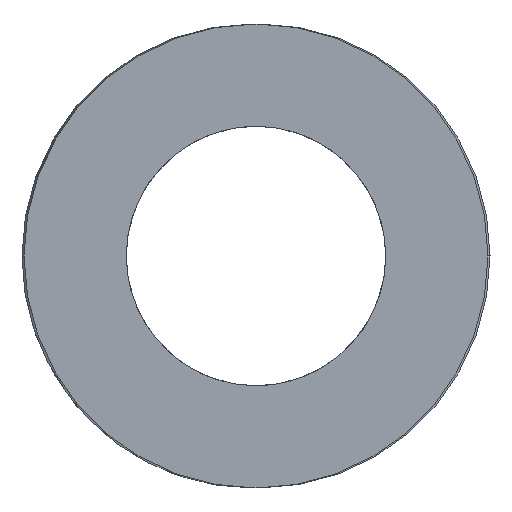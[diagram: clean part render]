
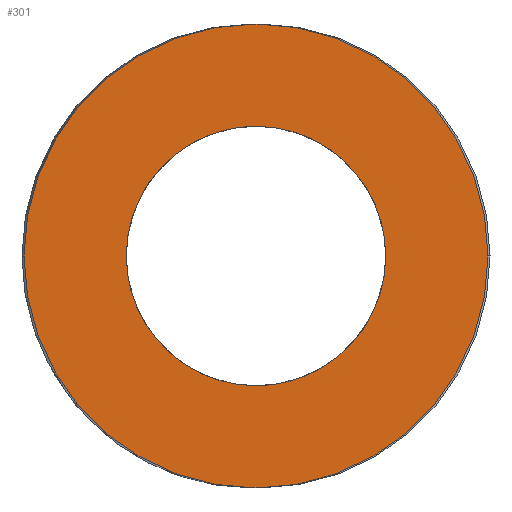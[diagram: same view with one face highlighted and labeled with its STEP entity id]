
A CAD part, left-side view. The second image highlights one B-rep face of the part: STEP entity #301.
In plain terms, the highlighted planar face has unit normal (-1, 0, 0).
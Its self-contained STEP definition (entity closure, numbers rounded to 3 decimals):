
#63=CARTESIAN_POINT('Vertex',(0.,12.25,0.)) ;
#77=CARTESIAN_POINT('Vertex',(0.,-12.25,0.)) ;
#80=CARTESIAN_POINT('Axis2P3D Location',(0.,0.,0.)) ;
#97=CARTESIAN_POINT('Axis2P3D Location',(0.,0.,0.)) ;
#232=CARTESIAN_POINT('Axis2P3D Location',(0.,6.125,0.)) ;
#242=CARTESIAN_POINT('Control Point',(0.,0.,-6.85)) ;
#243=CARTESIAN_POINT('Control Point',(0.,0.641,-6.85)) ;
#244=CARTESIAN_POINT('Control Point',(0.,1.282,-6.775)) ;
#245=CARTESIAN_POINT('Control Point',(0.,1.912,-6.625)) ;
#246=CARTESIAN_POINT('Control Point',(0.,3.124,-6.181)) ;
#247=CARTESIAN_POINT('Control Point',(0.,4.2,-5.468)) ;
#248=CARTESIAN_POINT('Control Point',(0.,4.694,-5.051)) ;
#249=CARTESIAN_POINT('Control Point',(0.,5.576,-4.107)) ;
#250=CARTESIAN_POINT('Control Point',(0.,6.215,-2.986)) ;
#251=CARTESIAN_POINT('Control Point',(0.,6.468,-2.39)) ;
#252=CARTESIAN_POINT('Control Point',(0.,6.829,-1.151)) ;
#253=CARTESIAN_POINT('Control Point',(0.,6.894,0.139)) ;
#254=CARTESIAN_POINT('Control Point',(0.,6.851,0.784)) ;
#255=CARTESIAN_POINT('Control Point',(0.,6.614,2.053)) ;
#256=CARTESIAN_POINT('Control Point',(0.,6.09,3.233)) ;
#257=CARTESIAN_POINT('Control Point',(0.,5.76,3.79)) ;
#258=CARTESIAN_POINT('Control Point',(0.,4.977,4.816)) ;
#259=CARTESIAN_POINT('Control Point',(0.,3.977,5.633)) ;
#260=CARTESIAN_POINT('Control Point',(0.,3.432,5.981)) ;
#261=CARTESIAN_POINT('Control Point',(0.,2.436,6.462)) ;
#262=CARTESIAN_POINT('Control Point',(0.,1.368,6.735)) ;
#263=CARTESIAN_POINT('Control Point',(0.,0.915,6.812)) ;
#264=CARTESIAN_POINT('Control Point',(0.,0.457,6.85)) ;
#265=CARTESIAN_POINT('Control Point',(0.,0.,6.85)) ;
#266=CARTESIAN_POINT('Vertex',(0.,0.,-6.85)) ;
#268=CARTESIAN_POINT('Vertex',(0.,0.,6.85)) ;
#272=CARTESIAN_POINT('Control Point',(0.,0.,6.85)) ;
#273=CARTESIAN_POINT('Control Point',(0.,-0.641,6.85)) ;
#274=CARTESIAN_POINT('Control Point',(0.,-1.282,6.775)) ;
#275=CARTESIAN_POINT('Control Point',(0.,-1.912,6.625)) ;
#276=CARTESIAN_POINT('Control Point',(0.,-3.124,6.181)) ;
#277=CARTESIAN_POINT('Control Point',(0.,-4.2,5.468)) ;
#278=CARTESIAN_POINT('Control Point',(0.,-4.694,5.051)) ;
#279=CARTESIAN_POINT('Control Point',(0.,-5.576,4.107)) ;
#280=CARTESIAN_POINT('Control Point',(0.,-6.215,2.986)) ;
#281=CARTESIAN_POINT('Control Point',(0.,-6.468,2.39)) ;
#282=CARTESIAN_POINT('Control Point',(0.,-6.829,1.151)) ;
#283=CARTESIAN_POINT('Control Point',(0.,-6.894,-0.139)) ;
#284=CARTESIAN_POINT('Control Point',(0.,-6.851,-0.784)) ;
#285=CARTESIAN_POINT('Control Point',(0.,-6.614,-2.053)) ;
#286=CARTESIAN_POINT('Control Point',(0.,-6.09,-3.233)) ;
#287=CARTESIAN_POINT('Control Point',(0.,-5.76,-3.79)) ;
#288=CARTESIAN_POINT('Control Point',(0.,-4.977,-4.816)) ;
#289=CARTESIAN_POINT('Control Point',(0.,-3.977,-5.633)) ;
#290=CARTESIAN_POINT('Control Point',(0.,-3.432,-5.981)) ;
#291=CARTESIAN_POINT('Control Point',(0.,-2.436,-6.462)) ;
#292=CARTESIAN_POINT('Control Point',(0.,-1.368,-6.735)) ;
#293=CARTESIAN_POINT('Control Point',(0.,-0.915,-6.812)) ;
#294=CARTESIAN_POINT('Control Point',(0.,-0.457,-6.85)) ;
#295=CARTESIAN_POINT('Control Point',(0.,0.,-6.85)) ;
#81=DIRECTION('Axis2P3D Direction',(1.,-0.,0.)) ;
#98=DIRECTION('Axis2P3D Direction',(1.,-0.,0.)) ;
#233=DIRECTION('Axis2P3D Direction',(-1.,0.,0.)) ;
#234=DIRECTION('Axis2P3D XDirection',(0.,1.,0.)) ;
#82=AXIS2_PLACEMENT_3D('Circle Axis2P3D',#80,#81,$) ;
#99=AXIS2_PLACEMENT_3D('Circle Axis2P3D',#97,#98,$) ;
#235=AXIS2_PLACEMENT_3D('Plane Axis2P3D',#232,#233,#234) ;
#238=ORIENTED_EDGE('',*,*,#84,.T.) ;
#239=ORIENTED_EDGE('',*,*,#101,.T.) ;
#298=ORIENTED_EDGE('',*,*,#270,.T.) ;
#299=ORIENTED_EDGE('',*,*,#296,.T.) ;
#300=FACE_BOUND('',#297,.T.) ;
#301=ADVANCED_FACE('392-B25-139',(#240,#300),#236,.T.) ;
#241=B_SPLINE_CURVE_WITH_KNOTS('',5,(#242,#243,#244,#245,#246,#247,#248,#249,#250,#251,#252,#253,#254,#255,#256,#257,#258,#259,#260,#261,#262,#263,#264,#265),.UNSPECIFIED.,.F.,.U.,(6,3,3,3,3,3,3,6),(0.,4.533,9.066,13.6,18.133,22.666,27.199,30.433),.UNSPECIFIED.) ;
#271=B_SPLINE_CURVE_WITH_KNOTS('',5,(#272,#273,#274,#275,#276,#277,#278,#279,#280,#281,#282,#283,#284,#285,#286,#287,#288,#289,#290,#291,#292,#293,#294,#295),.UNSPECIFIED.,.F.,.U.,(6,3,3,3,3,3,3,6),(0.,4.533,9.066,13.6,18.133,22.666,27.199,30.433),.UNSPECIFIED.) ;
#83=CIRCLE('generated circle',#82,12.25) ;
#100=CIRCLE('generated circle',#99,12.25) ;
#84=EDGE_CURVE('',#64,#78,#83,.F.) ;
#101=EDGE_CURVE('',#78,#64,#100,.F.) ;
#270=EDGE_CURVE('',#267,#269,#241,.T.) ;
#296=EDGE_CURVE('',#269,#267,#271,.T.) ;
#237=EDGE_LOOP('',(#238,#239)) ;
#297=EDGE_LOOP('',(#298,#299)) ;
#240=FACE_OUTER_BOUND('',#237,.T.) ;
#236=PLANE('Plane',#235) ;
#64=VERTEX_POINT('',#63) ;
#78=VERTEX_POINT('',#77) ;
#267=VERTEX_POINT('',#266) ;
#269=VERTEX_POINT('',#268) ;
